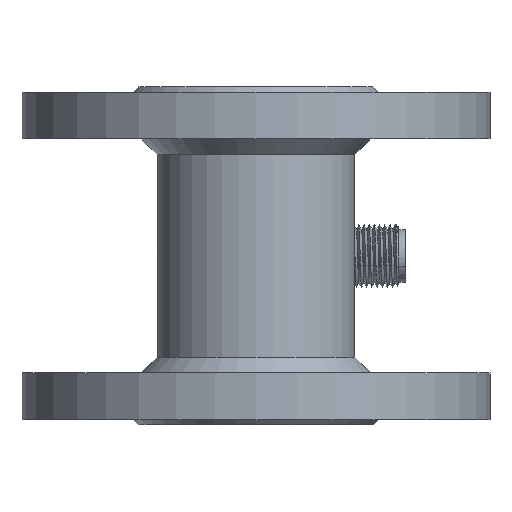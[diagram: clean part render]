
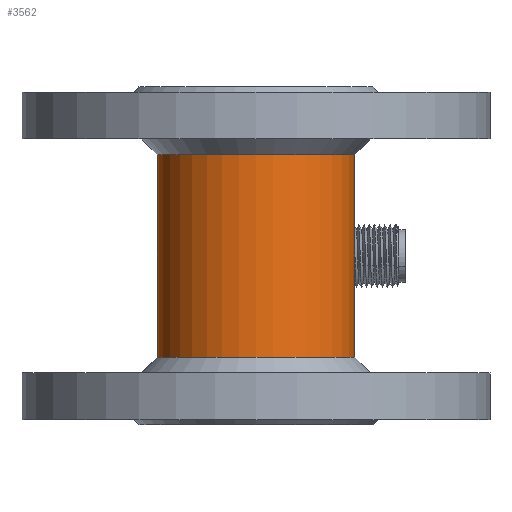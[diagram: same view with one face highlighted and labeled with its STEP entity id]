
A CAD part, front view. The second image highlights one B-rep face of the part: STEP entity #3562.
In plain terms, the highlighted cylindrical face has radius 19 mm (diameter 38 mm), a full revolution.
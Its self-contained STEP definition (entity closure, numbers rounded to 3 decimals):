
#2259=FACE_BOUND('',#5312,.T.);
#2260=FACE_BOUND('',#5313,.T.);
#2261=FACE_BOUND('',#5314,.T.);
#2463=CYLINDRICAL_SURFACE('',#15368,19.);
#2825=CIRCLE('',#15366,19.);
#2826=CIRCLE('',#15367,19.);
#3562=ADVANCED_FACE('',(#2259,#2260,#2261),#2463,.T.);
#5312=EDGE_LOOP('',(#9528,#9529,#9530,#9531));
#5313=EDGE_LOOP('',(#9532));
#5314=EDGE_LOOP('',(#9533));
#6066=B_SPLINE_CURVE_WITH_KNOTS('',3,(#31812,#31813,#31814,#31815,#31816,
#31817,#31818,#31819,#31820,#31821),.UNSPECIFIED.,.F.,.F.,(4,2,2,2,4),(0.,
0.25,0.5,0.75,1.),.UNSPECIFIED.);
#6067=B_SPLINE_CURVE_WITH_KNOTS('',3,(#31826,#31827,#31828,#31829,#31830,
#31831,#31832,#31833,#31834,#31835),.UNSPECIFIED.,.F.,.F.,(4,2,2,2,4),(0.,
0.25,0.5,0.75,1.),.UNSPECIFIED.);
#9528=ORIENTED_EDGE('',*,*,#12638,.F.);
#9529=ORIENTED_EDGE('',*,*,#12639,.F.);
#9530=ORIENTED_EDGE('',*,*,#12640,.F.);
#9531=ORIENTED_EDGE('',*,*,#12641,.F.);
#9532=ORIENTED_EDGE('',*,*,#12642,.T.);
#9533=ORIENTED_EDGE('',*,*,#12643,.T.);
#10850=VERTEX_POINT('',#31822);
#10851=VERTEX_POINT('',#31823);
#10852=VERTEX_POINT('',#31825);
#10853=VERTEX_POINT('',#31836);
#10854=VERTEX_POINT('',#31839);
#10855=VERTEX_POINT('',#31841);
#12638=EDGE_CURVE('',#10850,#10851,#6066,.T.);
#12639=EDGE_CURVE('',#10852,#10850,#13534,.T.);
#12640=EDGE_CURVE('',#10853,#10852,#6067,.T.);
#12641=EDGE_CURVE('',#10851,#10853,#13535,.T.);
#12642=EDGE_CURVE('',#10854,#10854,#2825,.T.);
#12643=EDGE_CURVE('',#10855,#10855,#2826,.T.);
#13534=LINE('',#31824,#14490);
#13535=LINE('',#31837,#14491);
#14490=VECTOR('',#18144,1.);
#14491=VECTOR('',#18145,1.);
#15366=AXIS2_PLACEMENT_3D('',#31838,#18146,#18147);
#15367=AXIS2_PLACEMENT_3D('',#31840,#18148,#18149);
#15368=AXIS2_PLACEMENT_3D('',#31842,#18150,#18151);
#18144=DIRECTION('',(0.,0.,-1.));
#18145=DIRECTION('',(0.,0.,1.));
#18146=DIRECTION('',(0.,0.,-1.));
#18147=DIRECTION('',(1.,0.,0.));
#18148=DIRECTION('',(0.,0.,1.));
#18149=DIRECTION('',(-1.,0.,0.));
#18150=DIRECTION('',(0.,0.,-1.));
#18151=DIRECTION('',(1.,0.,0.));
#31812=CARTESIAN_POINT('',(9.421,16.5,-11.744));
#31813=CARTESIAN_POINT('',(8.319,17.129,-13.13));
#31814=CARTESIAN_POINT('',(6.968,17.756,-14.292));
#31815=CARTESIAN_POINT('',(3.749,18.702,-15.981));
#31816=CARTESIAN_POINT('',(1.899,18.998,-16.469));
#31817=CARTESIAN_POINT('',(-1.866,19.002,-16.479));
#31818=CARTESIAN_POINT('',(-3.729,18.706,-15.995));
#31819=CARTESIAN_POINT('',(-6.946,17.764,-14.325));
#31820=CARTESIAN_POINT('',(-8.321,17.128,-13.149));
#31821=CARTESIAN_POINT('',(-9.421,16.5,-11.774));
#31822=CARTESIAN_POINT('',(9.421,16.5,-11.744));
#31823=CARTESIAN_POINT('',(-9.421,16.5,-11.774));
#31824=CARTESIAN_POINT('',(9.421,16.5,54.5));
#31825=CARTESIAN_POINT('',(9.421,16.5,7.744));
#31826=CARTESIAN_POINT('',(-9.421,16.5,7.774));
#31827=CARTESIAN_POINT('',(-8.312,17.133,9.161));
#31828=CARTESIAN_POINT('',(-6.967,17.757,10.311));
#31829=CARTESIAN_POINT('',(-3.739,18.704,11.993));
#31830=CARTESIAN_POINT('',(-1.885,18.998,12.473));
#31831=CARTESIAN_POINT('',(1.844,19.002,12.475));
#31832=CARTESIAN_POINT('',(3.722,18.707,11.99));
#31833=CARTESIAN_POINT('',(6.94,17.766,10.312));
#31834=CARTESIAN_POINT('',(8.313,17.132,9.137));
#31835=CARTESIAN_POINT('',(9.421,16.5,7.744));
#31836=CARTESIAN_POINT('',(-9.421,16.5,7.774));
#31837=CARTESIAN_POINT('',(-9.421,16.5,54.5));
#31838=CARTESIAN_POINT('',(0.,0.,17.5));
#31839=CARTESIAN_POINT('',(19.,0.,17.5));
#31840=CARTESIAN_POINT('',(0.,0.,-21.5));
#31841=CARTESIAN_POINT('',(-19.,0.,-21.5));
#31842=CARTESIAN_POINT('',(0.,0.,54.5));
